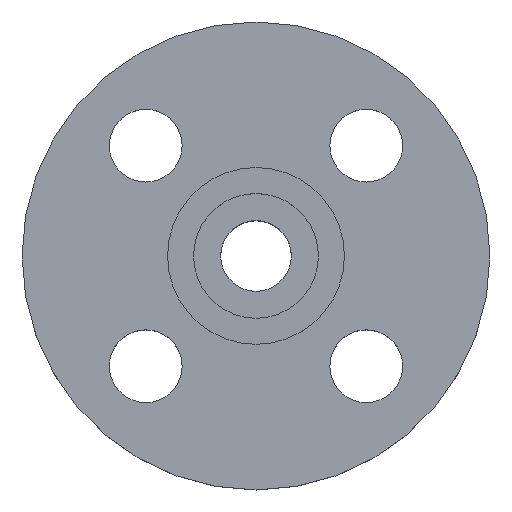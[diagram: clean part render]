
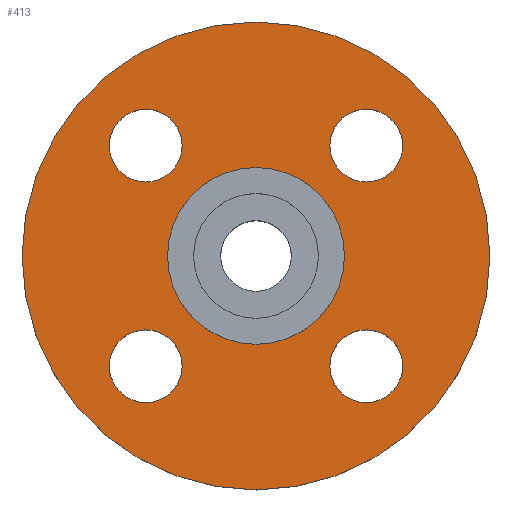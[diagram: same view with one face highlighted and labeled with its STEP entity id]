
A CAD part, top view. The second image highlights one B-rep face of the part: STEP entity #413.
In plain terms, the highlighted planar face has unit normal (0, 0, 1).
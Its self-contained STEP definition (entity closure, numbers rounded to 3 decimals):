
#10 = CIRCLE ( 'NONE', #13, 7. ) ;
#13 = AXIS2_PLACEMENT_3D ( 'NONE', #326, #325, #324 ) ;
#14 = EDGE_CURVE ( 'NONE', #755, #798, #581, .T. ) ;
#20 = CIRCLE ( 'NONE', #201, 7. ) ;
#24 = CIRCLE ( 'NONE', #25, 7. ) ;
#25 = AXIS2_PLACEMENT_3D ( 'NONE', #309, #308, #307 ) ;
#37 = CIRCLE ( 'NONE', #623, 7. ) ;
#51 = AXIS2_PLACEMENT_3D ( 'NONE', #267, #266, #262 ) ;
#63 = CIRCLE ( 'NONE', #636, 45. ) ;
#76 = CIRCLE ( 'NONE', #350, 17. ) ;
#83 = CARTESIAN_POINT ( 'NONE',  ( 45., 0., -4.5 ) ) ;
#85 = CARTESIAN_POINT ( 'NONE',  ( 28.213, 21.213, -4.5 ) ) ;
#88 = EDGE_CURVE ( 'NONE', #793, #882, #313, .T. ) ;
#96 = CARTESIAN_POINT ( 'NONE',  ( -14.213, 21.213, -4.5 ) ) ;
#97 = EDGE_CURVE ( 'NONE', #782, #668, #20, .T. ) ;
#99 = AXIS2_PLACEMENT_3D ( 'NONE', #624, #358, #627 ) ;
#114 = CARTESIAN_POINT ( 'NONE',  ( 17., 0., -4.5 ) ) ;
#122 = CARTESIAN_POINT ( 'NONE',  ( -45., 0., -4.5 ) ) ;
#127 = CARTESIAN_POINT ( 'NONE',  ( 14.213, -21.213, -4.5 ) ) ;
#135 = CARTESIAN_POINT ( 'NONE',  ( -28.213, 21.213, -4.5 ) ) ;
#143 = CARTESIAN_POINT ( 'NONE',  ( 14.213, 21.213, -4.5 ) ) ;
#147 = CARTESIAN_POINT ( 'NONE',  ( -17., 0., -4.5 ) ) ;
#152 = DIRECTION ( 'NONE',  ( -1., 0., 0. ) ) ;
#161 = CIRCLE ( 'NONE', #250, 7. ) ;
#162 = DIRECTION ( 'NONE',  ( 1., 0., 0. ) ) ;
#165 = DIRECTION ( 'NONE',  ( 0., 0., -1. ) ) ;
#167 = CARTESIAN_POINT ( 'NONE',  ( 21.213, 21.213, -4.5 ) ) ;
#182 = CARTESIAN_POINT ( 'NONE',  ( -14.213, -21.213, -4.5 ) ) ;
#183 = CIRCLE ( 'NONE', #530, 7. ) ;
#196 = EDGE_CURVE ( 'NONE', #674, #706, #161, .T. ) ;
#201 = AXIS2_PLACEMENT_3D ( 'NONE', #491, #494, #495 ) ;
#226 = CARTESIAN_POINT ( 'NONE',  ( -28.213, -21.213, -4.5 ) ) ;
#227 = CIRCLE ( 'NONE', #51, 7. ) ;
#229 = DIRECTION ( 'NONE',  ( -1., 0., 0. ) ) ;
#230 = DIRECTION ( 'NONE',  ( 0., 0., -1. ) ) ;
#233 = CARTESIAN_POINT ( 'NONE',  ( 28.213, -21.213, -4.5 ) ) ;
#250 = AXIS2_PLACEMENT_3D ( 'NONE', #543, #549, #551 ) ;
#262 = DIRECTION ( 'NONE',  ( 1., 0., 0. ) ) ;
#266 = DIRECTION ( 'NONE',  ( 0., 0., -1. ) ) ;
#267 = CARTESIAN_POINT ( 'NONE',  ( -21.213, 21.213, -4.5 ) ) ;
#268 = DIRECTION ( 'NONE',  ( 1., 0., 0. ) ) ;
#269 = DIRECTION ( 'NONE',  ( 0., 0., -1. ) ) ;
#271 = CARTESIAN_POINT ( 'NONE',  ( -21.213, -21.213, -4.5 ) ) ;
#288 = DIRECTION ( 'NONE',  ( 1., 0., 0. ) ) ;
#291 = DIRECTION ( 'NONE',  ( 0., 0., -1. ) ) ;
#292 = CARTESIAN_POINT ( 'NONE',  ( 21.213, -21.213, -4.5 ) ) ;
#293 = DIRECTION ( 'NONE',  ( -1., 0., 0. ) ) ;
#295 = DIRECTION ( 'NONE',  ( 0., 0., -1. ) ) ;
#296 = CARTESIAN_POINT ( 'NONE',  ( 0., 0., -4.5 ) ) ;
#307 = DIRECTION ( 'NONE',  ( 1., 0., 0. ) ) ;
#308 = DIRECTION ( 'NONE',  ( 0., 0., -1. ) ) ;
#309 = CARTESIAN_POINT ( 'NONE',  ( 21.213, 21.213, -4.5 ) ) ;
#313 = CIRCLE ( 'NONE', #321, 45. ) ;
#321 = AXIS2_PLACEMENT_3D ( 'NONE', #487, #488, #490 ) ;
#324 = DIRECTION ( 'NONE',  ( 1., 0., 0. ) ) ;
#325 = DIRECTION ( 'NONE',  ( 0., 0., -1. ) ) ;
#326 = CARTESIAN_POINT ( 'NONE',  ( -21.213, 21.213, -4.5 ) ) ;
#345 = FACE_OUTER_BOUND ( 'NONE', #888, .T. ) ;
#348 = FACE_BOUND ( 'NONE', #676, .T. ) ;
#349 = AXIS2_PLACEMENT_3D ( 'NONE', #829, #768, #152 ) ;
#350 = AXIS2_PLACEMENT_3D ( 'NONE', #296, #295, #293 ) ;
#351 = FACE_BOUND ( 'NONE', #785, .T. ) ;
#352 = FACE_BOUND ( 'NONE', #719, .T. ) ;
#353 = FACE_BOUND ( 'NONE', #772, .T. ) ;
#354 = FACE_BOUND ( 'NONE', #886, .T. ) ;
#356 = PLANE ( 'NONE',  #99 ) ;
#358 = DIRECTION ( 'NONE',  ( 0., 0., 1. ) ) ;
#413 = ADVANCED_FACE ( 'NONE', ( #353, #352, #351, #348, #354, #345 ), #356, .T. ) ;
#487 = CARTESIAN_POINT ( 'NONE',  ( 0., 0., -4.5 ) ) ;
#488 = DIRECTION ( 'NONE',  ( 0., 0., -1. ) ) ;
#490 = DIRECTION ( 'NONE',  ( -1., 0., 0. ) ) ;
#491 = CARTESIAN_POINT ( 'NONE',  ( 21.213, -21.213, -4.5 ) ) ;
#494 = DIRECTION ( 'NONE',  ( 0., 0., -1. ) ) ;
#495 = DIRECTION ( 'NONE',  ( 1., 0., 0. ) ) ;
#530 = AXIS2_PLACEMENT_3D ( 'NONE', #167, #165, #162 ) ;
#543 = CARTESIAN_POINT ( 'NONE',  ( -21.213, -21.213, -4.5 ) ) ;
#547 = EDGE_CURVE ( 'NONE', #853, #766, #10, .T. ) ;
#549 = DIRECTION ( 'NONE',  ( 0., 0., -1. ) ) ;
#551 = DIRECTION ( 'NONE',  ( 1., 0., 0. ) ) ;
#567 = EDGE_CURVE ( 'NONE', #880, #763, #24, .T. ) ;
#580 = EDGE_CURVE ( 'NONE', #798, #755, #76, .T. ) ;
#581 = CIRCLE ( 'NONE', #349, 17. ) ;
#591 = EDGE_CURVE ( 'NONE', #668, #782, #37, .T. ) ;
#623 = AXIS2_PLACEMENT_3D ( 'NONE', #292, #291, #288 ) ;
#624 = CARTESIAN_POINT ( 'NONE',  ( 17., 0., -4.5 ) ) ;
#627 = DIRECTION ( 'NONE',  ( 1., 0., 0. ) ) ;
#634 = EDGE_CURVE ( 'NONE', #706, #674, #709, .T. ) ;
#636 = AXIS2_PLACEMENT_3D ( 'NONE', #713, #230, #229 ) ;
#637 = EDGE_CURVE ( 'NONE', #766, #853, #227, .T. ) ;
#650 = ORIENTED_EDGE ( 'NONE', *, *, #669, .F. ) ;
#654 = ORIENTED_EDGE ( 'NONE', *, *, #88, .F. ) ;
#668 = VERTEX_POINT ( 'NONE', #233 ) ;
#669 = EDGE_CURVE ( 'NONE', #882, #793, #63, .T. ) ;
#672 = ORIENTED_EDGE ( 'NONE', *, *, #580, .T. ) ;
#674 = VERTEX_POINT ( 'NONE', #226 ) ;
#676 = EDGE_LOOP ( 'NONE', ( #784, #786 ) ) ;
#706 = VERTEX_POINT ( 'NONE', #182 ) ;
#709 = CIRCLE ( 'NONE', #852, 7. ) ;
#713 = CARTESIAN_POINT ( 'NONE',  ( 0., 0., -4.5 ) ) ;
#719 = EDGE_LOOP ( 'NONE', ( #776, #777 ) ) ;
#727 = EDGE_CURVE ( 'NONE', #763, #880, #183, .T. ) ;
#755 = VERTEX_POINT ( 'NONE', #147 ) ;
#763 = VERTEX_POINT ( 'NONE', #143 ) ;
#766 = VERTEX_POINT ( 'NONE', #135 ) ;
#768 = DIRECTION ( 'NONE',  ( 0., 0., -1. ) ) ;
#772 = EDGE_LOOP ( 'NONE', ( #773, #774 ) ) ;
#773 = ORIENTED_EDGE ( 'NONE', *, *, #591, .T. ) ;
#774 = ORIENTED_EDGE ( 'NONE', *, *, #97, .T. ) ;
#776 = ORIENTED_EDGE ( 'NONE', *, *, #634, .T. ) ;
#777 = ORIENTED_EDGE ( 'NONE', *, *, #196, .T. ) ;
#778 = ORIENTED_EDGE ( 'NONE', *, *, #547, .T. ) ;
#781 = ORIENTED_EDGE ( 'NONE', *, *, #637, .T. ) ;
#782 = VERTEX_POINT ( 'NONE', #127 ) ;
#784 = ORIENTED_EDGE ( 'NONE', *, *, #567, .T. ) ;
#785 = EDGE_LOOP ( 'NONE', ( #778, #781 ) ) ;
#786 = ORIENTED_EDGE ( 'NONE', *, *, #727, .T. ) ;
#787 = ORIENTED_EDGE ( 'NONE', *, *, #14, .T. ) ;
#793 = VERTEX_POINT ( 'NONE', #122 ) ;
#798 = VERTEX_POINT ( 'NONE', #114 ) ;
#829 = CARTESIAN_POINT ( 'NONE',  ( 0., 0., -4.5 ) ) ;
#852 = AXIS2_PLACEMENT_3D ( 'NONE', #271, #269, #268 ) ;
#853 = VERTEX_POINT ( 'NONE', #96 ) ;
#880 = VERTEX_POINT ( 'NONE', #85 ) ;
#882 = VERTEX_POINT ( 'NONE', #83 ) ;
#886 = EDGE_LOOP ( 'NONE', ( #787, #672 ) ) ;
#888 = EDGE_LOOP ( 'NONE', ( #650, #654 ) ) ;
